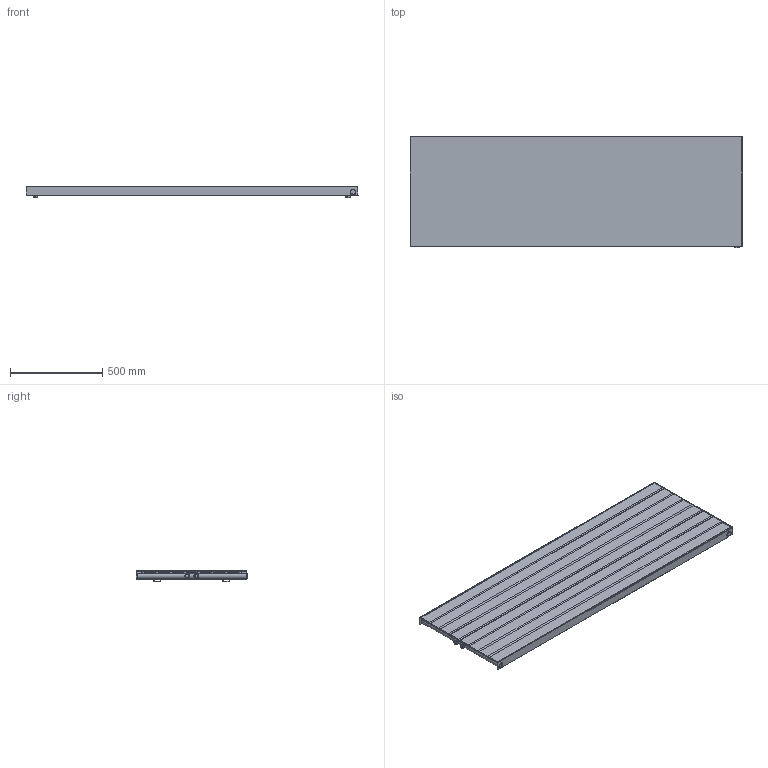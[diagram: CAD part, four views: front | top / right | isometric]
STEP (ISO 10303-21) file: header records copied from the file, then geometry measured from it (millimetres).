
FILE_DESCRIPTION(/* description */ (''),/* implementation_level */ '2;1');
FILE_NAME(/* name */ 'C:\Grzejniki\13DLUXRAD\pokojowe\NIAGARA\to\NIAGARA z osłoną w kolorze standardowym 1800x600.iam.stp',/* time_stamp */ '2016-06-28T17:34:17+02:00',/* author */ ('m.szydziak'),/* organization */ (''),/* preprocessor_version */ 'ST-DEVELOPER v16.5',/* originating_system */ 'Autodesk Inventor 2017',/* authorisation */ '');
FILE_SCHEMA (('AUTOMOTIVE_DESIGN { 1 0 10303 214 3 1 1 }'));
Length unit declared in the file: millimetre
Products named in the file (12): NIAGARA z osłoną w kolorze standa
rdowym 1800x600; NIAGARA 1800x600 osłona; NIAGARA 1800x595 ZDC; fi30x1,5x595; 70x8x1,2x1804; michałek; ucho duze; ucho duze 2; poprzeczka 545; ZDC dzwonki; dzwonek G0,5inch; korek
Assembly tree (39 placements, depth 4):
  NIAGARA z osłoną w kolorze standa
rdowym 1800x600
    NIAGARA 1800x600 osłona
    NIAGARA 1800x595 ZDC
      fi30x1,5x595  x2
      70x8x1,2x1804  x8
      michałek  x16
      ucho duze  x2
      ucho duze 2  x2
      poprzeczka 545  x3
      ZDC dzwonki
        dzwonek G0,5inch  x2
      korek
Bounding box: 1802 x 603.5 x 63.3 mm (x, y, z)
Volume: 3822523.2 mm3; surface area: 7092742.2 mm2
Topology: 37 solids, 37 shells, 509 faces, 1099 edges, 664 vertices
Faces by surface type: plane 247, cylinder 194, sphere 64, cone 2, bspline 2
Full cylindrical faces by diameter (mm): 8 x16, 9 x16, 10 x16, 11.5 x16, 16 x2, 18.5 x2, 18.631 x6, 22.9 x2, 24 x1, 25.3 x2, 27 x2, 30 x2
Entity records: 5172 total; most frequent: DIRECTION 902, CARTESIAN_POINT 902, ORIENTED_EDGE 722, EDGE_CURVE 361, AXIS2_PLACEMENT_3D 330, LINE 242, VECTOR 242, VERTEX_POINT 228
